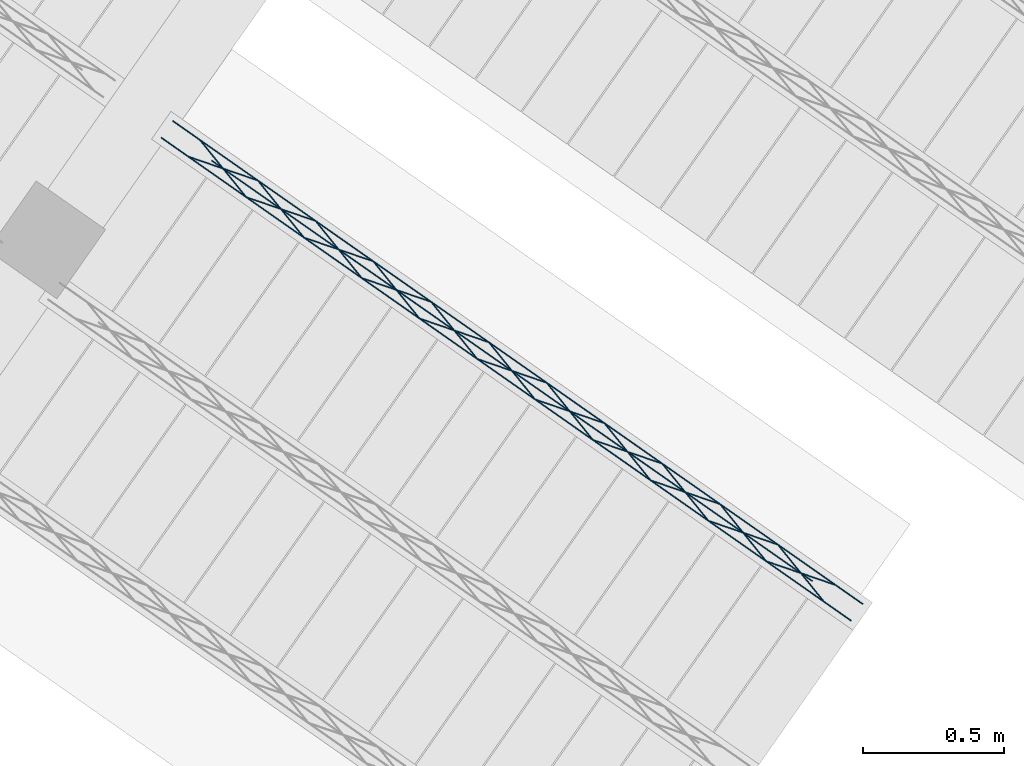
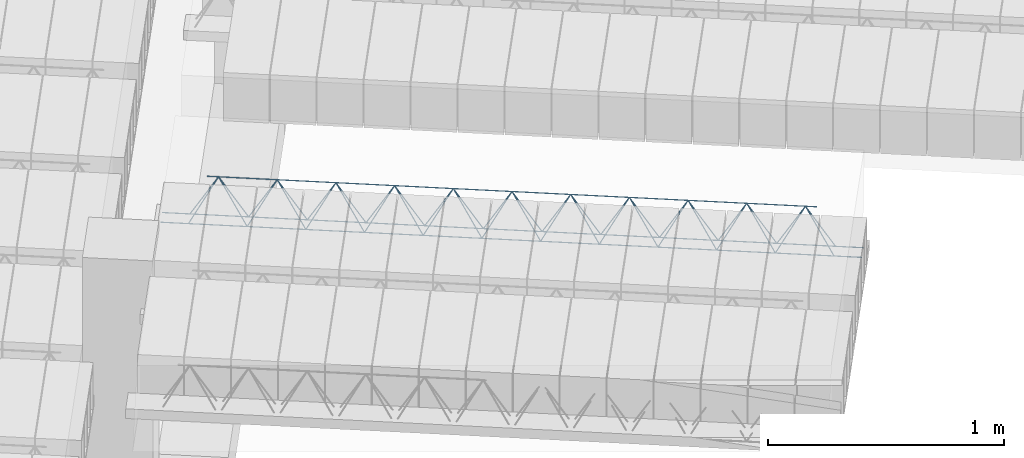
# One storey, part 8 of 80: 1 member.
"""IFC2X3 building model written with IfcOpenShell, lengths in metres."""

from ifc_helpers import new_model, entity, si_unit, converted_unit, derived_unit, direction, frame, origin, origin_2d_with_axis, place, context, subcontext, project, spatial, circle, extrude, type_object, element, save


model = new_model("IFC2X3")

# Units and contexts
model_context = context("Model", 3, precision=1e-05, world=origin(), true_north=direction((6.123031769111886e-17, 1.0)))
body_context = subcontext(model_context, "Body", "Model", "MODEL_VIEW")
ifc_project = project(units=[si_unit("LENGTHUNIT", "METRE"), si_unit("AREAUNIT", "SQUARE_METRE"), si_unit("VOLUMEUNIT", "CUBIC_METRE"), converted_unit("PLANEANGLEUNIT", "DEGREE", entity("IfcPlaneAngleMeasure", 0.017453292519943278), si_unit("PLANEANGLEUNIT", "RADIAN"), dimensions=[0, 0, 0, 0, 0, 0, 0]), si_unit("MASSUNIT", "GRAM", prefix="KILO"), derived_unit("MASSDENSITYUNIT", [(si_unit("MASSUNIT", "GRAM", prefix="KILO"), 1), (si_unit("LENGTHUNIT", "METRE"), -3)]), derived_unit("IONCONCENTRATIONUNIT", [(si_unit("MASSUNIT", "GRAM", prefix="KILO"), 1), (si_unit("LENGTHUNIT", "METRE"), -3)]), derived_unit("MOMENTOFINERTIAUNIT", [(si_unit("LENGTHUNIT", "METRE"), 4)]), si_unit("TIMEUNIT", "SECOND"), si_unit("FREQUENCYUNIT", "HERTZ"), si_unit("THERMODYNAMICTEMPERATUREUNIT", "DEGREE_CELSIUS"), derived_unit("THERMALTRANSMITTANCEUNIT", [(si_unit("MASSUNIT", "GRAM", prefix="KILO"), 1), (si_unit("THERMODYNAMICTEMPERATUREUNIT", "KELVIN"), -1), (si_unit("TIMEUNIT", "SECOND"), -3)]), derived_unit("THERMALCONDUCTANCEUNIT", [(si_unit("MASSUNIT", "GRAM", prefix="KILO"), 1), (si_unit("THERMODYNAMICTEMPERATUREUNIT", "KELVIN"), -1), (si_unit("TIMEUNIT", "SECOND"), -3), (si_unit("LENGTHUNIT", "METRE"), 1)]), derived_unit("VOLUMETRICFLOWRATEUNIT", [(si_unit("LENGTHUNIT", "METRE", prefix="DECI"), 3), (si_unit("TIMEUNIT", "SECOND"), -1)]), derived_unit("MASSFLOWRATEUNIT", [(si_unit("MASSUNIT", "GRAM", prefix="KILO"), 1), (si_unit("TIMEUNIT", "SECOND"), -1)]), derived_unit("ROTATIONALFREQUENCYUNIT", [(si_unit("TIMEUNIT", "SECOND"), -1)]), si_unit("ELECTRICCURRENTUNIT", "AMPERE"), si_unit("ELECTRICVOLTAGEUNIT", "VOLT"), si_unit("POWERUNIT", "WATT"), si_unit("FORCEUNIT", "NEWTON", prefix="KILO"), si_unit("ILLUMINANCEUNIT", "LUX"), si_unit("LUMINOUSFLUXUNIT", "LUMEN"), si_unit("LUMINOUSINTENSITYUNIT", "CANDELA"), si_unit("ENERGYUNIT", "JOULE"), derived_unit("USERDEFINED", [(si_unit("MASSUNIT", "GRAM", prefix="KILO"), -1), (si_unit("LENGTHUNIT", "METRE"), -2), (si_unit("TIMEUNIT", "SECOND"), 3), (si_unit("LUMINOUSFLUXUNIT", "LUMEN"), 1)]), derived_unit("USERDEFINED", [(si_unit("MASSUNIT", "GRAM", prefix="KILO"), 1), (si_unit("TIMEUNIT", "SECOND"), -3), (si_unit("LENGTHUNIT", "METRE"), 3), (si_unit("ELECTRICCURRENTUNIT", "AMPERE"), -2)]), derived_unit("SOUNDPOWERUNIT", [(si_unit("MASSUNIT", "GRAM", prefix="KILO"), 1), (si_unit("TIMEUNIT", "SECOND"), -3), (si_unit("LENGTHUNIT", "METRE"), 2)]), derived_unit("SOUNDPRESSUREUNIT", [(si_unit("MASSUNIT", "GRAM", prefix="KILO"), 1), (si_unit("LENGTHUNIT", "METRE"), -1), (si_unit("TIMEUNIT", "SECOND"), -2)]), derived_unit("LINEARVELOCITYUNIT", [(si_unit("LENGTHUNIT", "METRE"), 1), (si_unit("TIMEUNIT", "SECOND"), -1)]), si_unit("PRESSUREUNIT", "PASCAL"), derived_unit("USERDEFINED", [(si_unit("MASSUNIT", "GRAM", prefix="KILO"), 1), (si_unit("LENGTHUNIT", "METRE"), -2), (si_unit("TIMEUNIT", "SECOND"), -2)]), derived_unit("LINEARFORCEUNIT", [(si_unit("MASSUNIT", "GRAM", prefix="KILO"), 1), (si_unit("TIMEUNIT", "SECOND"), -2)]), derived_unit("PLANARFORCEUNIT", [(si_unit("MASSUNIT", "GRAM", prefix="KILO"), 1), (si_unit("LENGTHUNIT", "METRE"), -1), (si_unit("TIMEUNIT", "SECOND"), -2)]), derived_unit("SPECIFICHEATCAPACITYUNIT", [(si_unit("THERMODYNAMICTEMPERATUREUNIT", "KELVIN"), -1), (si_unit("LENGTHUNIT", "METRE"), 2), (si_unit("TIMEUNIT", "SECOND"), -2)]), derived_unit("HEATFLUXDENSITYUNIT", [(si_unit("MASSUNIT", "GRAM", prefix="KILO"), 1), (si_unit("TIMEUNIT", "SECOND"), -3)]), derived_unit("HEATINGVALUEUNIT", [(si_unit("LENGTHUNIT", "METRE"), 2), (si_unit("TIMEUNIT", "SECOND"), -2)]), derived_unit("VAPORPERMEABILITYUNIT", [(si_unit("LENGTHUNIT", "METRE"), -1), (si_unit("TIMEUNIT", "SECOND"), 1)]), derived_unit("DYNAMICVISCOSITYUNIT", [(si_unit("MASSUNIT", "GRAM", prefix="KILO"), 1), (si_unit("TIMEUNIT", "SECOND"), -1), (si_unit("LENGTHUNIT", "METRE"), -1)]), derived_unit("THERMALEXPANSIONCOEFFICIENTUNIT", [(si_unit("THERMODYNAMICTEMPERATUREUNIT", "KELVIN"), -1)]), derived_unit("MODULUSOFELASTICITYUNIT", [(si_unit("MASSUNIT", "GRAM", prefix="KILO"), 1), (si_unit("LENGTHUNIT", "METRE"), -1), (si_unit("TIMEUNIT", "SECOND"), -2)]), derived_unit("ISOTHERMALMOISTURECAPACITYUNIT", [(si_unit("MASSUNIT", "GRAM", prefix="KILO"), -1), (si_unit("LENGTHUNIT", "METRE"), 3)]), derived_unit("MOISTUREDIFFUSIVITYUNIT", [(si_unit("TIMEUNIT", "SECOND"), -1), (si_unit("LENGTHUNIT", "METRE"), 2)]), derived_unit("MASSPERLENGTHUNIT", [(si_unit("MASSUNIT", "GRAM", prefix="KILO"), 1), (si_unit("LENGTHUNIT", "METRE"), -1)]), derived_unit("THERMALRESISTANCEUNIT", [(si_unit("MASSUNIT", "GRAM", prefix="KILO"), -1), (si_unit("TIMEUNIT", "SECOND"), 3), (si_unit("THERMODYNAMICTEMPERATUREUNIT", "KELVIN"), 1)]), derived_unit("ACCELERATIONUNIT", [(si_unit("LENGTHUNIT", "METRE"), 1), (si_unit("TIMEUNIT", "SECOND"), -2)]), derived_unit("ANGULARVELOCITYUNIT", [(si_unit("TIMEUNIT", "SECOND"), -1), (si_unit("PLANEANGLEUNIT", "RADIAN"), 1)]), derived_unit("LINEARSTIFFNESSUNIT", [(si_unit("MASSUNIT", "GRAM", prefix="KILO"), 1), (si_unit("TIMEUNIT", "SECOND"), -2)]), derived_unit("WARPINGCONSTANTUNIT", [(si_unit("LENGTHUNIT", "METRE"), 6)]), derived_unit("LINEARMOMENTUNIT", [(si_unit("MASSUNIT", "GRAM", prefix="KILO"), 1), (si_unit("LENGTHUNIT", "METRE"), 1), (si_unit("TIMEUNIT", "SECOND"), -2)]), derived_unit("TORQUEUNIT", [(si_unit("MASSUNIT", "GRAM", prefix="KILO"), 1), (si_unit("LENGTHUNIT", "METRE"), 2), (si_unit("TIMEUNIT", "SECOND"), -2)])], contexts=[model_context])

# Site, building, storey
site_placement = place(None, origin())
site = spatial("IfcSite", under=ifc_project, at=site_placement, Name="Default", CompositionType="ELEMENT")
building_placement = place(site_placement, origin())
building = spatial("IfcBuilding", under=site, at=building_placement, CompositionType="ELEMENT")
storey_placement = place(building_placement, frame((0.0, 0.0, 95.94)))
storey = spatial("IfcBuildingStorey", under=building, at=storey_placement, Name="PB", CompositionType="ELEMENT", Elevation=95.94)

# Member
member_type = type_object("IfcMemberType", Name="Celosía (Vigueta 3 - Paño 13)", PredefinedType="NOTDEFINED")
member_placement = place(storey_placement, origin())
element("IfcMember", 1, at=member_placement, inside=storey, type_object=member_type, Name="Celosía (Vigueta 3 - Paño 13)", context=body_context, shape_type="SweptSolid", body=[
    extrude(circle(Radius=0.0025, at=origin_2d_with_axis()), frame((4.9971200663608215, 0.913202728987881, 3.3049999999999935), z_axis=(-0.8191520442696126, 0.5735764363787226, 0.0), x_axis=(-0.5735764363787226, -0.8191520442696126, 0.0)), (0.0, 0.0, 1.0), 2.9871844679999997),
    extrude(circle(Radius=0.0025, at=origin_2d_with_axis()), frame((2.7293920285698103, 2.545030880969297, 3.5299999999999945), z_axis=(0.8191520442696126, -0.5735764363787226, 0.0), x_axis=(-0.5735764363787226, -0.8191520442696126, 0.0)), (0.0, 0.0, 1.0), 2.6),
    extrude(circle(Radius=0.0025, at=origin_2d_with_axis()), frame((4.899974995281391, 0.9812244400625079, 3.3049999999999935), z_axis=(-0.3145304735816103, 0.389334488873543, 0.8657304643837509), x_axis=(-0.7778747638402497, -0.6284193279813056, 0.0)), (0.0, 0.0, 1.0), 0.2598961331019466),
    extrude(circle(Radius=0.0025, at=origin_2d_with_axis()), frame((4.69518698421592, 1.1246185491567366, 3.3049999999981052), z_axis=(0.47343050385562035, -0.1624017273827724, 0.8657304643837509), x_axis=(-0.3244721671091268, -0.9458952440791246, 0.0)), (0.0, 0.0, 1.0), 0.25989613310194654),
    extrude(circle(Radius=0.0025, at=origin_2d_with_axis()), frame((4.695186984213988, 1.1246185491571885, 3.3049999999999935), z_axis=(-0.3145304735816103, 0.389334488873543, 0.8657304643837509), x_axis=(-0.7778747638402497, -0.6284193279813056, 0.0)), (0.0, 0.0, 1.0), 0.2598961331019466),
    extrude(circle(Radius=0.0025, at=origin_2d_with_axis()), frame((4.490398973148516, 1.2680126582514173, 3.3049999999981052), z_axis=(0.47343050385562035, -0.1624017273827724, 0.8657304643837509), x_axis=(-0.3244721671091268, -0.9458952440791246, 0.0)), (0.0, 0.0, 1.0), 0.25989613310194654),
    extrude(circle(Radius=0.0025, at=origin_2d_with_axis()), frame((4.4903989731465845, 1.2680126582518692, 3.3049999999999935), z_axis=(-0.3145304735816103, 0.389334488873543, 0.8657304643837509), x_axis=(-0.7778747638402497, -0.6284193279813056, 0.0)), (0.0, 0.0, 1.0), 0.2598961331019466),
    extrude(circle(Radius=0.0025, at=origin_2d_with_axis()), frame((4.285610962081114, 1.411406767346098, 3.3049999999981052), z_axis=(0.47343050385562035, -0.1624017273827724, 0.8657304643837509), x_axis=(-0.3244721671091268, -0.9458952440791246, 0.0)), (0.0, 0.0, 1.0), 0.25989613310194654),
    extrude(circle(Radius=0.0025, at=origin_2d_with_axis()), frame((4.285610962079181, 1.4114067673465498, 3.3049999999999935), z_axis=(-0.3145304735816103, 0.389334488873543, 0.8657304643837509), x_axis=(-0.7778747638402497, -0.6284193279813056, 0.0)), (0.0, 0.0, 1.0), 0.2598961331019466),
    extrude(circle(Radius=0.0025, at=origin_2d_with_axis()), frame((4.080822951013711, 1.5548008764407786, 3.3049999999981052), z_axis=(0.47343050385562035, -0.1624017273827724, 0.8657304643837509), x_axis=(-0.3244721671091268, -0.9458952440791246, 0.0)), (0.0, 0.0, 1.0), 0.25989613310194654),
    extrude(circle(Radius=0.0025, at=origin_2d_with_axis()), frame((4.080822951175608, 1.554800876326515, 3.3049999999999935), z_axis=(-0.3145304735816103, 0.389334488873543, 0.8657304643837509), x_axis=(-0.7778747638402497, -0.6284193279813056, 0.0)), (0.0, 0.0, 1.0), 0.2598961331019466),
    extrude(circle(Radius=0.0025, at=origin_2d_with_axis()), frame((3.876034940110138, 1.698194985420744, 3.3049999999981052), z_axis=(0.47343050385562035, -0.1624017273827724, 0.8657304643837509), x_axis=(-0.3244721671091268, -0.9458952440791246, 0.0)), (0.0, 0.0, 1.0), 0.25989613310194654),
    extrude(circle(Radius=0.0025, at=origin_2d_with_axis()), frame((3.8760349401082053, 1.698194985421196, 3.3049999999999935), z_axis=(-0.3145304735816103, 0.389334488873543, 0.8657304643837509), x_axis=(-0.7778747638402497, -0.6284193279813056, 0.0)), (0.0, 0.0, 1.0), 0.2598961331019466),
    extrude(circle(Radius=0.0025, at=origin_2d_with_axis()), frame((3.6712469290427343, 1.8415890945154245, 3.3049999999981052), z_axis=(0.47343050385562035, -0.1624017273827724, 0.8657304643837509), x_axis=(-0.3244721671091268, -0.9458952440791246, 0.0)), (0.0, 0.0, 1.0), 0.25989613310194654),
    extrude(circle(Radius=0.0025, at=origin_2d_with_axis()), frame((3.671246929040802, 1.8415890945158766, 3.3049999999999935), z_axis=(-0.3145304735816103, 0.389334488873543, 0.8657304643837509), x_axis=(-0.7778747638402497, -0.6284193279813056, 0.0)), (0.0, 0.0, 1.0), 0.2598961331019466),
    extrude(circle(Radius=0.0025, at=origin_2d_with_axis()), frame((3.4664589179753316, 1.9849832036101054, 3.3049999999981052), z_axis=(0.47343050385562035, -0.1624017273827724, 0.8657304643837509), x_axis=(-0.3244721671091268, -0.9458952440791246, 0.0)), (0.0, 0.0, 1.0), 0.25989613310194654),
    extrude(circle(Radius=0.0025, at=origin_2d_with_axis()), frame((3.466458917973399, 1.9849832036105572, 3.3049999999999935), z_axis=(-0.3145304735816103, 0.389334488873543, 0.8657304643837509), x_axis=(-0.7778747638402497, -0.6284193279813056, 0.0)), (0.0, 0.0, 1.0), 0.2598961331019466),
    extrude(circle(Radius=0.0025, at=origin_2d_with_axis()), frame((3.2616709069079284, 2.1283773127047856, 3.3049999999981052), z_axis=(0.47343050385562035, -0.1624017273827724, 0.8657304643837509), x_axis=(-0.3244721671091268, -0.9458952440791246, 0.0)), (0.0, 0.0, 1.0), 0.25989613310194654),
    extrude(circle(Radius=0.0025, at=origin_2d_with_axis()), frame((3.2616709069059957, 2.1283773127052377, 3.3049999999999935), z_axis=(-0.3145304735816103, 0.389334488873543, 0.8657304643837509), x_axis=(-0.7778747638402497, -0.6284193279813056, 0.0)), (0.0, 0.0, 1.0), 0.2598961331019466),
    extrude(circle(Radius=0.0025, at=origin_2d_with_axis()), frame((3.0568828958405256, 2.2717714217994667, 3.3049999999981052), z_axis=(0.47343050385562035, -0.1624017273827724, 0.8657304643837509), x_axis=(-0.3244721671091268, -0.9458952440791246, 0.0)), (0.0, 0.0, 1.0), 0.25989613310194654),
    extrude(circle(Radius=0.0025, at=origin_2d_with_axis()), frame((3.056882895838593, 2.271771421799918, 3.3049999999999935), z_axis=(-0.3145304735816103, 0.389334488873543, 0.8657304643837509), x_axis=(-0.7778747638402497, -0.6284193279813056, 0.0)), (0.0, 0.0, 1.0), 0.2598961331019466),
    extrude(circle(Radius=0.0025, at=origin_2d_with_axis()), frame((2.8520948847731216, 2.4151655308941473, 3.3049999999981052), z_axis=(0.47343050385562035, -0.1624017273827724, 0.8657304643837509), x_axis=(-0.3244721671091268, -0.9458952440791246, 0.0)), (0.0, 0.0, 1.0), 0.25989613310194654),
    extrude(circle(Radius=0.0025, at=origin_2d_with_axis()), frame((2.8520948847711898, 2.415165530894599, 3.3049999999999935), z_axis=(-0.3145304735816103, 0.389334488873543, 0.8657304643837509), x_axis=(-0.7778747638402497, -0.6284193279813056, 0.0)), (0.0, 0.0, 1.0), 0.2598961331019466),
    extrude(circle(Radius=0.0025, at=origin_2d_with_axis()), frame((2.647306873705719, 2.558559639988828, 3.3049999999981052), z_axis=(0.47343050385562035, -0.1624017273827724, 0.8657304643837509), x_axis=(-0.3244721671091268, -0.9458952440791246, 0.0)), (0.0, 0.0, 1.0), 0.25989613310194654),
    extrude(circle(Radius=0.0025, at=origin_2d_with_axis()), frame((5.038417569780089, 0.972181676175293, 3.3049999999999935), z_axis=(-0.8191520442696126, 0.5735764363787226, 0.0), x_axis=(-0.5735764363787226, -0.8191520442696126, 0.0)), (0.0, 0.0, 1.0), 2.9871844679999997),
    extrude(circle(Radius=0.0025, at=origin_2d_with_axis()), frame((4.941272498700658, 1.04020338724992, 3.3049999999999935), z_axis=(-0.47343050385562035, 0.1624017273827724, 0.8657304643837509), x_axis=(-0.3244721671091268, -0.9458952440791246, 0.0)), (0.0, 0.0, 1.0), 0.25989613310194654),
    extrude(circle(Radius=0.0025, at=origin_2d_with_axis()), frame((4.736484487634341, 1.1835974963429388, 3.3049999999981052), z_axis=(0.3145304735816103, -0.389334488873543, 0.8657304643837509), x_axis=(-0.7778747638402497, -0.6284193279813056, 0.0)), (0.0, 0.0, 1.0), 0.2598961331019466),
    extrude(circle(Radius=0.0025, at=origin_2d_with_axis()), frame((4.7364844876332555, 1.1835974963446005, 3.3049999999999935), z_axis=(-0.47343050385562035, 0.1624017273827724, 0.8657304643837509), x_axis=(-0.3244721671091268, -0.9458952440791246, 0.0)), (0.0, 0.0, 1.0), 0.25989613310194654),
    extrude(circle(Radius=0.0025, at=origin_2d_with_axis()), frame((4.531696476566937, 1.3269916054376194, 3.3049999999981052), z_axis=(0.3145304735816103, -0.389334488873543, 0.8657304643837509), x_axis=(-0.7778747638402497, -0.6284193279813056, 0.0)), (0.0, 0.0, 1.0), 0.2598961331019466),
    extrude(circle(Radius=0.0025, at=origin_2d_with_axis()), frame((4.531696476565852, 1.3269916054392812, 3.3049999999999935), z_axis=(-0.47343050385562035, 0.1624017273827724, 0.8657304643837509), x_axis=(-0.3244721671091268, -0.9458952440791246, 0.0)), (0.0, 0.0, 1.0), 0.25989613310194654),
    extrude(circle(Radius=0.0025, at=origin_2d_with_axis()), frame((4.3269084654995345, 1.4703857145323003, 3.3049999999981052), z_axis=(0.3145304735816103, -0.389334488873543, 0.8657304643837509), x_axis=(-0.7778747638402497, -0.6284193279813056, 0.0)), (0.0, 0.0, 1.0), 0.2598961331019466),
    extrude(circle(Radius=0.0025, at=origin_2d_with_axis()), frame((4.326908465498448, 1.4703857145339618, 3.3049999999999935), z_axis=(-0.47343050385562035, 0.1624017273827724, 0.8657304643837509), x_axis=(-0.3244721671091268, -0.9458952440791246, 0.0)), (0.0, 0.0, 1.0), 0.25989613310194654),
    extrude(circle(Radius=0.0025, at=origin_2d_with_axis()), frame((4.122120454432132, 1.6137798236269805, 3.3049999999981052), z_axis=(0.3145304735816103, -0.389334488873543, 0.8657304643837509), x_axis=(-0.7778747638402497, -0.6284193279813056, 0.0)), (0.0, 0.0, 1.0), 0.2598961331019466),
    extrude(circle(Radius=0.0025, at=origin_2d_with_axis()), frame((4.122120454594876, 1.6137798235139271, 3.3049999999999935), z_axis=(-0.47343050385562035, 0.1624017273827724, 0.8657304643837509), x_axis=(-0.3244721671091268, -0.9458952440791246, 0.0)), (0.0, 0.0, 1.0), 0.25989613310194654),
    extrude(circle(Radius=0.0025, at=origin_2d_with_axis()), frame((3.917332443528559, 1.7571739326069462, 3.3049999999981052), z_axis=(0.3145304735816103, -0.389334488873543, 0.8657304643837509), x_axis=(-0.7778747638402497, -0.6284193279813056, 0.0)), (0.0, 0.0, 1.0), 0.2598961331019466),
    extrude(circle(Radius=0.0025, at=origin_2d_with_axis()), frame((3.917332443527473, 1.757173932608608, 3.3049999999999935), z_axis=(-0.47343050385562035, 0.1624017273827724, 0.8657304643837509), x_axis=(-0.3244721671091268, -0.9458952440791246, 0.0)), (0.0, 0.0, 1.0), 0.25989613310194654),
    extrude(circle(Radius=0.0025, at=origin_2d_with_axis()), frame((3.712544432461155, 1.9005680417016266, 3.3049999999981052), z_axis=(0.3145304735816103, -0.389334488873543, 0.8657304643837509), x_axis=(-0.7778747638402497, -0.6284193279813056, 0.0)), (0.0, 0.0, 1.0), 0.2598961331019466),
    extrude(circle(Radius=0.0025, at=origin_2d_with_axis()), frame((3.71254443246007, 1.9005680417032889, 3.3049999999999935), z_axis=(-0.47343050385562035, 0.1624017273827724, 0.8657304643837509), x_axis=(-0.3244721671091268, -0.9458952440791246, 0.0)), (0.0, 0.0, 1.0), 0.25989613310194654),
    extrude(circle(Radius=0.0025, at=origin_2d_with_axis()), frame((3.5077564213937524, 2.0439621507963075, 3.3049999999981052), z_axis=(0.3145304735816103, -0.389334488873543, 0.8657304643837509), x_axis=(-0.7778747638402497, -0.6284193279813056, 0.0)), (0.0, 0.0, 1.0), 0.2598961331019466),
    extrude(circle(Radius=0.0025, at=origin_2d_with_axis()), frame((3.5077564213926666, 2.0439621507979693, 3.3049999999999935), z_axis=(-0.47343050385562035, 0.1624017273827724, 0.8657304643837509), x_axis=(-0.3244721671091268, -0.9458952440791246, 0.0)), (0.0, 0.0, 1.0), 0.25989613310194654),
    extrude(circle(Radius=0.0025, at=origin_2d_with_axis()), frame((3.3029684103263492, 2.1873562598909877, 3.3049999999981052), z_axis=(0.3145304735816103, -0.389334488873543, 0.8657304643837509), x_axis=(-0.7778747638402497, -0.6284193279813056, 0.0)), (0.0, 0.0, 1.0), 0.2598961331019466),
    extrude(circle(Radius=0.0025, at=origin_2d_with_axis()), frame((3.3029684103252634, 2.1873562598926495, 3.3049999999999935), z_axis=(-0.47343050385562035, 0.1624017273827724, 0.8657304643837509), x_axis=(-0.3244721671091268, -0.9458952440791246, 0.0)), (0.0, 0.0, 1.0), 0.25989613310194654),
    extrude(circle(Radius=0.0025, at=origin_2d_with_axis()), frame((3.0981803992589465, 2.330750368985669, 3.3049999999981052), z_axis=(0.3145304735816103, -0.389334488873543, 0.8657304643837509), x_axis=(-0.7778747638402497, -0.6284193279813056, 0.0)), (0.0, 0.0, 1.0), 0.2598961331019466),
    extrude(circle(Radius=0.0025, at=origin_2d_with_axis()), frame((3.0981803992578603, 2.33075036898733, 3.3049999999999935), z_axis=(-0.47343050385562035, 0.1624017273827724, 0.8657304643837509), x_axis=(-0.3244721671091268, -0.9458952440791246, 0.0)), (0.0, 0.0, 1.0), 0.25989613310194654),
    extrude(circle(Radius=0.0025, at=origin_2d_with_axis()), frame((2.8933923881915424, 2.4741444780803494, 3.3049999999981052), z_axis=(0.3145304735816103, -0.389334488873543, 0.8657304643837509), x_axis=(-0.7778747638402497, -0.6284193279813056, 0.0)), (0.0, 0.0, 1.0), 0.2598961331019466),
    extrude(circle(Radius=0.0025, at=origin_2d_with_axis()), frame((2.8933923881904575, 2.474144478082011, 3.3049999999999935), z_axis=(-0.47343050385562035, 0.1624017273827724, 0.8657304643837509), x_axis=(-0.3244721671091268, -0.9458952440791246, 0.0)), (0.0, 0.0, 1.0), 0.25989613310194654),
    extrude(circle(Radius=0.0025, at=origin_2d_with_axis()), frame((2.6886043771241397, 2.6175385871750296, 3.3049999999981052), z_axis=(0.3145304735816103, -0.389334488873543, 0.8657304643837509), x_axis=(-0.7778747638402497, -0.6284193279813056, 0.0)), (0.0, 0.0, 1.0), 0.2598961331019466),
])

save(model, "model.ifc")
